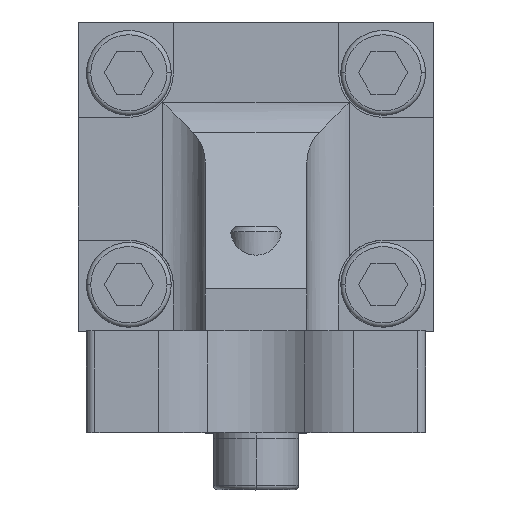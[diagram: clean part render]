
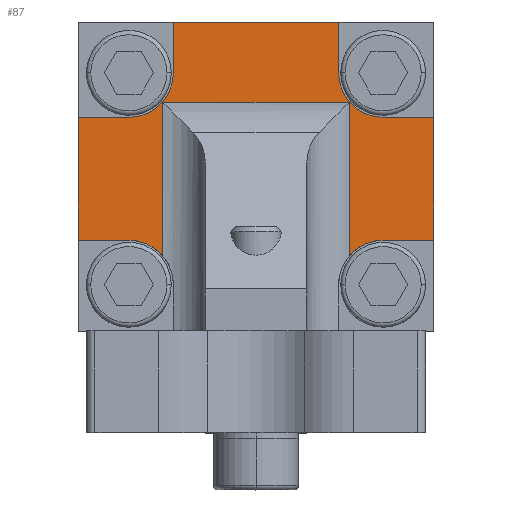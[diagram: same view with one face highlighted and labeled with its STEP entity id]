
A CAD part, top view. The second image highlights one B-rep face of the part: STEP entity #87.
In plain terms, the highlighted planar face has unit normal (0, 0, 1).
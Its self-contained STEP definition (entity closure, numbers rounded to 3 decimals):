
#36 = CARTESIAN_POINT ( 'NONE',  ( 21., 37.25, 12. ) ) ;
#68 = VECTOR ( 'NONE', #2074, 1000. ) ;
#87 = ADVANCED_FACE ( 'NONE', ( #3683 ), #7420, .F. ) ;
#161 = LINE ( 'NONE', #7539, #4962 ) ;
#204 = ORIENTED_EDGE ( 'NONE', *, *, #2470, .F. ) ;
#209 = LINE ( 'NONE', #6183, #5408 ) ;
#268 = CARTESIAN_POINT ( 'NONE',  ( 6., 39.036, 12. ) ) ;
#355 = CARTESIAN_POINT ( 'NONE',  ( 11., 39.036, 12. ) ) ;
#433 = LINE ( 'NONE', #2837, #5024 ) ;
#459 = VERTEX_POINT ( 'NONE', #1579 ) ;
#737 = ORIENTED_EDGE ( 'NONE', *, *, #4679, .F. ) ;
#882 = CARTESIAN_POINT ( 'NONE',  ( -9.75, 42.5, 12. ) ) ;
#924 = DIRECTION ( 'NONE',  ( 0., 1., 0. ) ) ;
#1073 = VERTEX_POINT ( 'NONE', #6591 ) ;
#1103 = CARTESIAN_POINT ( 'NONE',  ( 0., 22.75, 12. ) ) ;
#1117 = DIRECTION ( 'NONE',  ( -1., 0., 0. ) ) ;
#1156 = ORIENTED_EDGE ( 'NONE', *, *, #4566, .T. ) ;
#1187 = DIRECTION ( 'NONE',  ( 0., 0., 1. ) ) ;
#1227 = EDGE_CURVE ( 'NONE', #4670, #7157, #161, .T. ) ;
#1397 = CIRCLE ( 'NONE', #6570, 5.25 ) ;
#1456 = CARTESIAN_POINT ( 'NONE',  ( -9.75, 0., 12. ) ) ;
#1540 = CARTESIAN_POINT ( 'NONE',  ( 9.75, 48.5, 12. ) ) ;
#1557 = CARTESIAN_POINT ( 'NONE',  ( 15., 22.75, 12. ) ) ;
#1579 = CARTESIAN_POINT ( 'NONE',  ( -21., 37.25, 12. ) ) ;
#1660 = VECTOR ( 'NONE', #7770, 1000. ) ;
#1679 = ORIENTED_EDGE ( 'NONE', *, *, #4916, .T. ) ;
#1694 = LINE ( 'NONE', #7734, #3285 ) ;
#1727 = DIRECTION ( 'NONE',  ( 1., 0., 0. ) ) ;
#1735 = VECTOR ( 'NONE', #6906, 1000. ) ;
#1955 = CARTESIAN_POINT ( 'NONE',  ( -21., 22.75, 12. ) ) ;
#1977 = CARTESIAN_POINT ( 'NONE',  ( 0., 0., 12. ) ) ;
#2021 = VERTEX_POINT ( 'NONE', #3414 ) ;
#2071 = CARTESIAN_POINT ( 'NONE',  ( 11., 20.9, 12. ) ) ;
#2074 = DIRECTION ( 'NONE',  ( 1., 0., 0. ) ) ;
#2104 = EDGE_CURVE ( 'NONE', #7178, #2939, #5664, .T. ) ;
#2109 = DIRECTION ( 'NONE',  ( -1., 0., 0. ) ) ;
#2235 = LINE ( 'NONE', #4065, #4057 ) ;
#2427 = DIRECTION ( 'NONE',  ( -1., 0., 0. ) ) ;
#2445 = VECTOR ( 'NONE', #2109, 1000. ) ;
#2470 = EDGE_CURVE ( 'NONE', #459, #2961, #3736, .T. ) ;
#2477 = CIRCLE ( 'NONE', #4473, 5.25 ) ;
#2480 = ORIENTED_EDGE ( 'NONE', *, *, #3743, .T. ) ;
#2523 = EDGE_CURVE ( 'NONE', #2961, #6284, #2477, .T. ) ;
#2550 = CARTESIAN_POINT ( 'NONE',  ( 0., 22.75, 12. ) ) ;
#2561 = ORIENTED_EDGE ( 'NONE', *, *, #3574, .F. ) ;
#2657 = ORIENTED_EDGE ( 'NONE', *, *, #7002, .F. ) ;
#2794 = ORIENTED_EDGE ( 'NONE', *, *, #6665, .F. ) ;
#2820 = LINE ( 'NONE', #5709, #6078 ) ;
#2837 = CARTESIAN_POINT ( 'NONE',  ( -21., 48.5, 12. ) ) ;
#2898 = VERTEX_POINT ( 'NONE', #1557 ) ;
#2936 = LINE ( 'NONE', #3510, #1660 ) ;
#2939 = VERTEX_POINT ( 'NONE', #1955 ) ;
#2961 = VERTEX_POINT ( 'NONE', #6761 ) ;
#3001 = ORIENTED_EDGE ( 'NONE', *, *, #5045, .F. ) ;
#3086 = EDGE_CURVE ( 'NONE', #2898, #6874, #4759, .T. ) ;
#3087 = DIRECTION ( 'NONE',  ( 0., 1., 0. ) ) ;
#3138 = CARTESIAN_POINT ( 'NONE',  ( 0., 37.25, 12. ) ) ;
#3166 = VECTOR ( 'NONE', #3502, 1000. ) ;
#3186 = ORIENTED_EDGE ( 'NONE', *, *, #3086, .F. ) ;
#3285 = VECTOR ( 'NONE', #7779, 1000. ) ;
#3414 = CARTESIAN_POINT ( 'NONE',  ( 21., 22.75, 12. ) ) ;
#3502 = DIRECTION ( 'NONE',  ( -1., 0., 0. ) ) ;
#3510 = CARTESIAN_POINT ( 'NONE',  ( 11., 0., 12. ) ) ;
#3574 = EDGE_CURVE ( 'NONE', #7157, #7115, #5525, .T. ) ;
#3680 = CARTESIAN_POINT ( 'NONE',  ( -9.75, 48.5, 12. ) ) ;
#3683 = FACE_OUTER_BOUND ( 'NONE', #4852, .T. ) ;
#3736 = LINE ( 'NONE', #3138, #68 ) ;
#3743 = EDGE_CURVE ( 'NONE', #4670, #4204, #433, .T. ) ;
#3876 = AXIS2_PLACEMENT_3D ( 'NONE', #5339, #1187, #2427 ) ;
#3883 = ORIENTED_EDGE ( 'NONE', *, *, #6459, .T. ) ;
#3934 = LINE ( 'NONE', #268, #2445 ) ;
#3940 = DIRECTION ( 'NONE',  ( 0., 0., 1. ) ) ;
#4053 = LINE ( 'NONE', #1103, #3166 ) ;
#4057 = VECTOR ( 'NONE', #1727, 1000. ) ;
#4065 = CARTESIAN_POINT ( 'NONE',  ( 0., 37.25, 12. ) ) ;
#4204 = VERTEX_POINT ( 'NONE', #3680 ) ;
#4426 = DIRECTION ( 'NONE',  ( 0., -1., 0. ) ) ;
#4473 = AXIS2_PLACEMENT_3D ( 'NONE', #4576, #3940, #4620 ) ;
#4486 = DIRECTION ( 'NONE',  ( 0., 0., 1. ) ) ;
#4566 = EDGE_CURVE ( 'NONE', #2021, #5459, #209, .T. ) ;
#4576 = CARTESIAN_POINT ( 'NONE',  ( -15., 42.5, 12. ) ) ;
#4620 = DIRECTION ( 'NONE',  ( -1., 0., 0. ) ) ;
#4642 = CARTESIAN_POINT ( 'NONE',  ( 9.75, 42.5, 12. ) ) ;
#4670 = VERTEX_POINT ( 'NONE', #1540 ) ;
#4679 = EDGE_CURVE ( 'NONE', #6284, #4204, #6421, .T. ) ;
#4705 = CARTESIAN_POINT ( 'NONE',  ( -15., 17.5, 12. ) ) ;
#4756 = CARTESIAN_POINT ( 'NONE',  ( -15., 22.75, 12. ) ) ;
#4759 = CIRCLE ( 'NONE', #6141, 5.25 ) ;
#4852 = EDGE_LOOP ( 'NONE', ( #6766, #6807, #1679, #3186, #2657, #1156, #2794, #2561, #7016, #2480, #737, #4961, #204, #3883, #7694, #3001 ) ) ;
#4913 = AXIS2_PLACEMENT_3D ( 'NONE', #1977, #6832, #6788 ) ;
#4916 = EDGE_CURVE ( 'NONE', #5319, #6874, #2936, .T. ) ;
#4961 = ORIENTED_EDGE ( 'NONE', *, *, #2523, .F. ) ;
#4962 = VECTOR ( 'NONE', #4426, 1000. ) ;
#5024 = VECTOR ( 'NONE', #7128, 1000. ) ;
#5045 = EDGE_CURVE ( 'NONE', #6707, #7178, #1397, .T. ) ;
#5123 = DIRECTION ( 'NONE',  ( -1., 0., 0. ) ) ;
#5319 = VERTEX_POINT ( 'NONE', #355 ) ;
#5339 = CARTESIAN_POINT ( 'NONE',  ( 15., 42.5, 12. ) ) ;
#5408 = VECTOR ( 'NONE', #3087, 1000. ) ;
#5459 = VERTEX_POINT ( 'NONE', #36 ) ;
#5525 = CIRCLE ( 'NONE', #3876, 5.25 ) ;
#5664 = LINE ( 'NONE', #2550, #1735 ) ;
#5709 = CARTESIAN_POINT ( 'NONE',  ( -11., 39.036, 12. ) ) ;
#5799 = CARTESIAN_POINT ( 'NONE',  ( 15., 17.5, 12. ) ) ;
#6050 = VECTOR ( 'NONE', #924, 1000. ) ;
#6078 = VECTOR ( 'NONE', #7652, 1000. ) ;
#6141 = AXIS2_PLACEMENT_3D ( 'NONE', #5799, #4486, #5123 ) ;
#6183 = CARTESIAN_POINT ( 'NONE',  ( 21., 0., 12. ) ) ;
#6284 = VERTEX_POINT ( 'NONE', #882 ) ;
#6322 = EDGE_CURVE ( 'NONE', #6707, #1073, #2820, .T. ) ;
#6421 = LINE ( 'NONE', #1456, #6050 ) ;
#6459 = EDGE_CURVE ( 'NONE', #459, #2939, #1694, .T. ) ;
#6533 = DIRECTION ( 'NONE',  ( 0., 0., 1. ) ) ;
#6570 = AXIS2_PLACEMENT_3D ( 'NONE', #4705, #6533, #1117 ) ;
#6591 = CARTESIAN_POINT ( 'NONE',  ( -11., 39.036, 12. ) ) ;
#6665 = EDGE_CURVE ( 'NONE', #7115, #5459, #2235, .T. ) ;
#6707 = VERTEX_POINT ( 'NONE', #7214 ) ;
#6761 = CARTESIAN_POINT ( 'NONE',  ( -15., 37.25, 12. ) ) ;
#6766 = ORIENTED_EDGE ( 'NONE', *, *, #6322, .T. ) ;
#6788 = DIRECTION ( 'NONE',  ( -1., 0., 0. ) ) ;
#6807 = ORIENTED_EDGE ( 'NONE', *, *, #6825, .F. ) ;
#6825 = EDGE_CURVE ( 'NONE', #5319, #1073, #3934, .T. ) ;
#6832 = DIRECTION ( 'NONE',  ( 0., 0., -1. ) ) ;
#6874 = VERTEX_POINT ( 'NONE', #2071 ) ;
#6906 = DIRECTION ( 'NONE',  ( -1., 0., 0. ) ) ;
#6922 = CARTESIAN_POINT ( 'NONE',  ( 15., 37.25, 12. ) ) ;
#7002 = EDGE_CURVE ( 'NONE', #2021, #2898, #4053, .T. ) ;
#7016 = ORIENTED_EDGE ( 'NONE', *, *, #1227, .F. ) ;
#7115 = VERTEX_POINT ( 'NONE', #6922 ) ;
#7128 = DIRECTION ( 'NONE',  ( -1., 0., 0. ) ) ;
#7157 = VERTEX_POINT ( 'NONE', #4642 ) ;
#7178 = VERTEX_POINT ( 'NONE', #4756 ) ;
#7214 = CARTESIAN_POINT ( 'NONE',  ( -11., 20.9, 12. ) ) ;
#7420 = PLANE ( 'NONE',  #4913 ) ;
#7539 = CARTESIAN_POINT ( 'NONE',  ( 9.75, 0., 12. ) ) ;
#7652 = DIRECTION ( 'NONE',  ( 0., 1., 0. ) ) ;
#7694 = ORIENTED_EDGE ( 'NONE', *, *, #2104, .F. ) ;
#7734 = CARTESIAN_POINT ( 'NONE',  ( -21., 0., 12. ) ) ;
#7770 = DIRECTION ( 'NONE',  ( 0., -1., 0. ) ) ;
#7779 = DIRECTION ( 'NONE',  ( 0., -1., 0. ) ) ;
